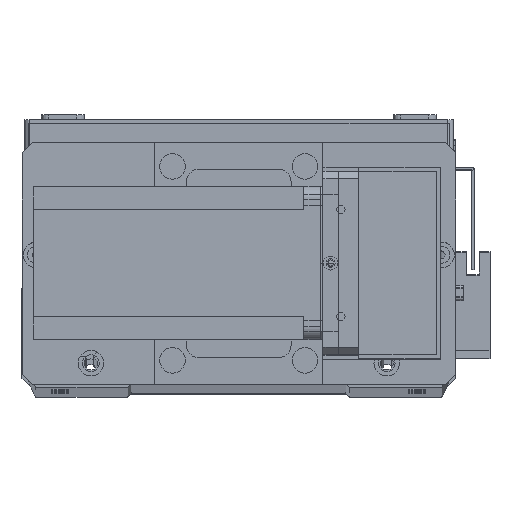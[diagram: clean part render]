
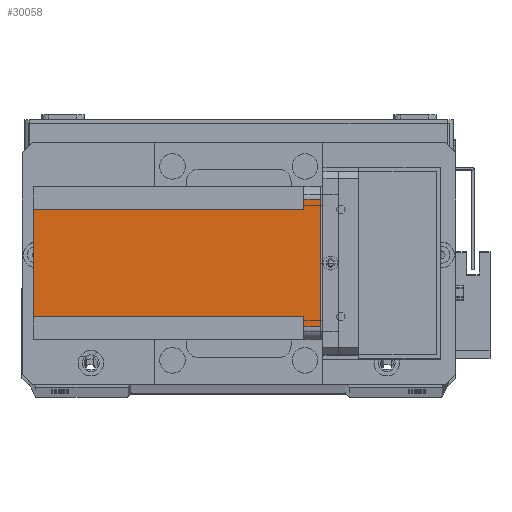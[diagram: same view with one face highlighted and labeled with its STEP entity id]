
A CAD part, top view. The second image highlights one B-rep face of the part: STEP entity #30058.
In plain terms, the highlighted planar face has unit normal (0, 0, 1) as drawn and (-1, 0, 0) by its records, which use the part's own axes.
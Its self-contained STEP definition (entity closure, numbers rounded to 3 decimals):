
#333 = LINE ( 'NONE', #10830, #14286 ) ;
#511 = ORIENTED_EDGE ( 'NONE', *, *, #9469, .F. ) ;
#606 = VERTEX_POINT ( 'NONE', #4958 ) ;
#671 = DIRECTION ( 'NONE',  ( -1., 0., 0. ) ) ;
#705 = VERTEX_POINT ( 'NONE', #30137 ) ;
#1140 = VECTOR ( 'NONE', #30218, 1000. ) ;
#1566 = LINE ( 'NONE', #27389, #21105 ) ;
#1944 = VERTEX_POINT ( 'NONE', #12189 ) ;
#4958 = CARTESIAN_POINT ( 'NONE',  ( 0., 51., -6.5 ) ) ;
#5001 = VECTOR ( 'NONE', #28196, 1000. ) ;
#6877 = VERTEX_POINT ( 'NONE', #31091 ) ;
#6958 = ORIENTED_EDGE ( 'NONE', *, *, #9364, .T. ) ;
#7227 = CARTESIAN_POINT ( 'NONE',  ( 0., 9., -112.5 ) ) ;
#8955 = EDGE_CURVE ( 'NONE', #12409, #1944, #333, .T. ) ;
#9359 = EDGE_CURVE ( 'NONE', #16973, #705, #15051, .T. ) ;
#9364 = EDGE_CURVE ( 'NONE', #16973, #1944, #21490, .T. ) ;
#9413 = EDGE_CURVE ( 'NONE', #12409, #27543, #13465, .T. ) ;
#9469 = EDGE_CURVE ( 'NONE', #606, #27543, #11913, .T. ) ;
#9501 = EDGE_CURVE ( 'NONE', #6877, #606, #24222, .T. ) ;
#9541 = ORIENTED_EDGE ( 'NONE', *, *, #9413, .T. ) ;
#9563 = EDGE_CURVE ( 'NONE', #6877, #31738, #1566, .T. ) ;
#9595 = EDGE_CURVE ( 'NONE', #705, #31738, #27609, .T. ) ;
#10830 = CARTESIAN_POINT ( 'NONE',  ( 0., 0., 0. ) ) ;
#10913 = CARTESIAN_POINT ( 'NONE',  ( 0., 55., 0. ) ) ;
#11413 = EDGE_LOOP ( 'NONE', ( #13888, #6958, #15052, #9541, #511, #27071, #25443, #24190 ) ) ;
#11913 = LINE ( 'NONE', #28711, #12696 ) ;
#12189 = CARTESIAN_POINT ( 'NONE',  ( 0., 5., 0. ) ) ;
#12409 = VERTEX_POINT ( 'NONE', #10913 ) ;
#12542 = DIRECTION ( 'NONE',  ( 0., -1., 0. ) ) ;
#12696 = VECTOR ( 'NONE', #28688, 1000. ) ;
#13465 = LINE ( 'NONE', #29275, #19157 ) ;
#13888 = ORIENTED_EDGE ( 'NONE', *, *, #9359, .F. ) ;
#14286 = VECTOR ( 'NONE', #12542, 1000. ) ;
#15051 = LINE ( 'NONE', #30727, #1140 ) ;
#15052 = ORIENTED_EDGE ( 'NONE', *, *, #8955, .F. ) ;
#16216 = CARTESIAN_POINT ( 'NONE',  ( 0., 0., -112.5 ) ) ;
#16235 = CARTESIAN_POINT ( 'NONE',  ( 0., 5., -6.5 ) ) ;
#16973 = VERTEX_POINT ( 'NONE', #16235 ) ;
#17900 = CARTESIAN_POINT ( 'NONE',  ( 0., 55., -6.5 ) ) ;
#18606 = DIRECTION ( 'NONE',  ( 0., -1., 0. ) ) ;
#19157 = VECTOR ( 'NONE', #29341, 1000. ) ;
#20304 = VECTOR ( 'NONE', #26745, 1000. ) ;
#20707 = VECTOR ( 'NONE', #29754, 1000. ) ;
#21105 = VECTOR ( 'NONE', #27239, 1000. ) ;
#21490 = LINE ( 'NONE', #29924, #20707 ) ;
#24190 = ORIENTED_EDGE ( 'NONE', *, *, #9595, .F. ) ;
#24222 = LINE ( 'NONE', #28277, #5001 ) ;
#25443 = ORIENTED_EDGE ( 'NONE', *, *, #9563, .T. ) ;
#26148 = AXIS2_PLACEMENT_3D ( 'NONE', #16216, #671, #18606 ) ;
#26716 = CARTESIAN_POINT ( 'NONE',  ( 0., 9., -112.5 ) ) ;
#26745 = DIRECTION ( 'NONE',  ( 0., 0., -1. ) ) ;
#27071 = ORIENTED_EDGE ( 'NONE', *, *, #9501, .F. ) ;
#27239 = DIRECTION ( 'NONE',  ( 0., -1., 0. ) ) ;
#27389 = CARTESIAN_POINT ( 'NONE',  ( 0., 0., -112.5 ) ) ;
#27543 = VERTEX_POINT ( 'NONE', #17900 ) ;
#27560 = FACE_OUTER_BOUND ( 'NONE', #11413, .T. ) ;
#27609 = LINE ( 'NONE', #26716, #20304 ) ;
#28196 = DIRECTION ( 'NONE',  ( 0., 0., 1. ) ) ;
#28277 = CARTESIAN_POINT ( 'NONE',  ( 0., 51., -112.5 ) ) ;
#28396 = PLANE ( 'NONE',  #26148 ) ;
#28688 = DIRECTION ( 'NONE',  ( 0., 1., 0. ) ) ;
#28711 = CARTESIAN_POINT ( 'NONE',  ( 0., 60., -6.5 ) ) ;
#29275 = CARTESIAN_POINT ( 'NONE',  ( 0., 55., -112.5 ) ) ;
#29341 = DIRECTION ( 'NONE',  ( 0., 0., -1. ) ) ;
#29754 = DIRECTION ( 'NONE',  ( 0., 0., 1. ) ) ;
#29924 = CARTESIAN_POINT ( 'NONE',  ( 0., 5., -112.5 ) ) ;
#30058 = ADVANCED_FACE ( 'NONE', ( #27560 ), #28396, .T. ) ;
#30137 = CARTESIAN_POINT ( 'NONE',  ( 0., 9., -6.5 ) ) ;
#30218 = DIRECTION ( 'NONE',  ( 0., 1., 0. ) ) ;
#30727 = CARTESIAN_POINT ( 'NONE',  ( 0., 0., -6.5 ) ) ;
#31091 = CARTESIAN_POINT ( 'NONE',  ( 0., 51., -112.5 ) ) ;
#31738 = VERTEX_POINT ( 'NONE', #7227 ) ;
